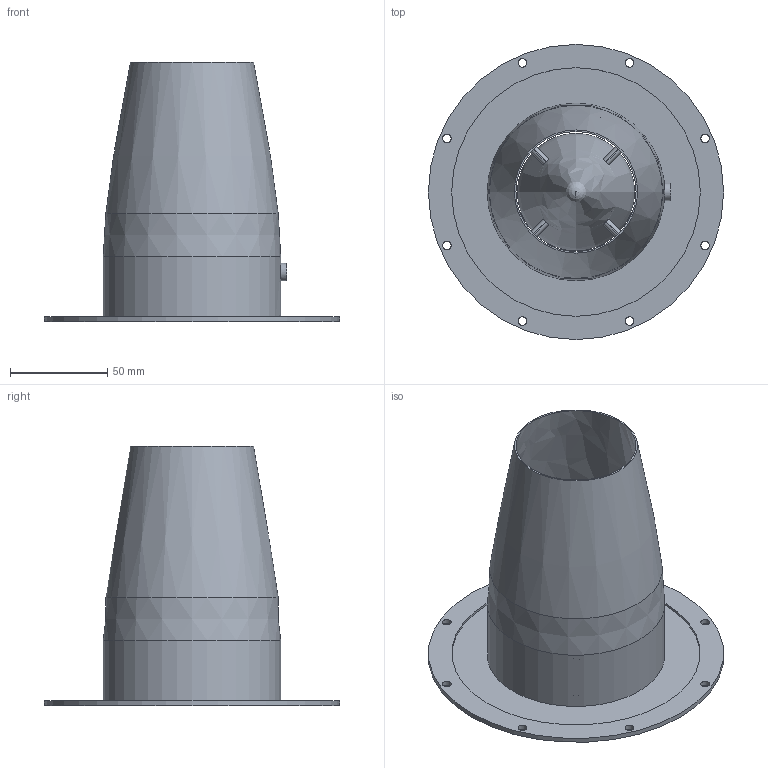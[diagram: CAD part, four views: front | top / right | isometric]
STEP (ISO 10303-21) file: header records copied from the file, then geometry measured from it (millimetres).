
FILE_DESCRIPTION(('Open CASCADE Model'),'2;1');
FILE_NAME('Open CASCADE Shape Model','2026-09-23T04:43:50',('Author'),( 'Open CASCADE'),'Open CASCADE STEP processor 7.9','Open CASCADE 7.9' ,'Unknown');
FILE_SCHEMA(('AUTOMOTIVE_DESIGN { 1 0 10303 214 1 1 1 1 }'));
Length unit declared in the file: millimetre
Products named in the file (1): Open CASCADE STEP translator 7.9 3
Bounding box: 152 x 152 x 133.5 mm (x, y, z)
Volume: 63932.4 mm3; surface area: 122159 mm2
Topology: 1 solids, 1 shells, 59 faces, 159 edges, 105 vertices
Faces by surface type: cylinder 31, plane 23, revolution 4, cone 1
Full cylindrical faces by diameter (mm): 4.2 x1, 4.5 x8, 9 x1, 26 x1, 89.806 x1, 91.406 x1, 128 x1, 152 x1
Entity records: 7711 total; most frequent: CARTESIAN_POINT 4822, DIRECTION 419, ORIENTED_EDGE 318, PCURVE 318, DEFINITIONAL_REPRESENTATION 318, LINE 209, VECTOR 209, B_SPLINE_CURVE_WITH_KNOTS 195
